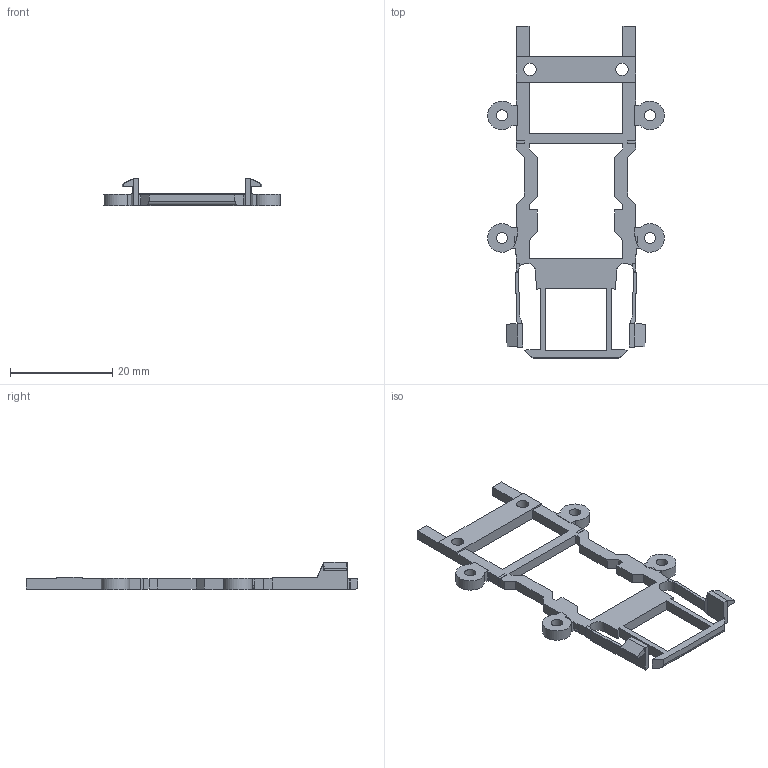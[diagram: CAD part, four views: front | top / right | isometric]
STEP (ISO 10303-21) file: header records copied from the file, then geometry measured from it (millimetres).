
FILE_DESCRIPTION(('Open CASCADE Model'),'2;1');
FILE_NAME('Open CASCADE Shape Model','2026-10-11T15:14:52',('Author'),( 'Open CASCADE'),'Open CASCADE STEP processor 7.9','Open CASCADE 7.9' ,'Unknown');
FILE_SCHEMA(('AUTOMOTIVE_DESIGN { 1 0 10303 214 1 1 1 1 }'));
Length unit declared in the file: millimetre
Products named in the file (1): Open CASCADE STEP translator 7.9 1
Bounding box: 34.58 x 65 x 5.3 mm (x, y, z)
Volume: 1377 mm3; surface area: 2535.5 mm2
Topology: 1 solids, 1 shells, 224 faces, 659 edges, 436 vertices
Faces by surface type: plane 199, cylinder 25
Full cylindrical faces by diameter (mm): 2.2 x4, 2.4 x2
Entity records: 15959 total; most frequent: CARTESIAN_POINT 2921, DIRECTION 2360, LINE 1700, VECTOR 1700, ORIENTED_EDGE 1318, PCURVE 1318, DEFINITIONAL_REPRESENTATION 1318, EDGE_CURVE 659
